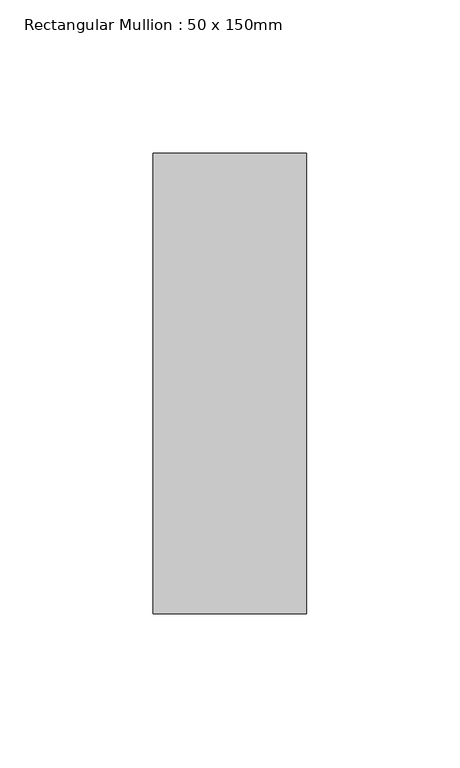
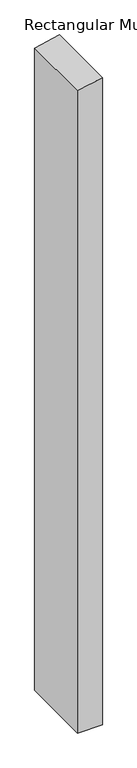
"""IFC4 building model written with IfcOpenShell, lengths in millimetres: member geometry, Rectangular Mullion : 50 x 150mm."""

from ifc_helpers import new_model, si_unit, frame, origin, place, context, project, spatial, polyline, outline, extrude, source, transform, mapped, element, save


def rectangular_mullion_50_x_150mm_c624180b(model_context):
    return source(origin(), model_context, "Body", "SweptSolid", [
        extrude(outline(polyline([(0.0, 0.0), (-10.8374123, -50.0), (-1382.0057927, -50.0), (-1382.0576086, 0.0), (0.0, 0.0)])), frame((0.0, -75.0, 0.0), z_axis=(0.0, 1.0, 0.0), x_axis=(0.0, 0.0, 1.0)), (0.0, 0.0, 1.0), 150.0),
    ])


if __name__ == "__main__":
    model = new_model("IFC4")
    model_context = context("Model", 3, world=origin())
    ifc_project = project(units=[si_unit("LENGTHUNIT", "METRE", prefix="MILLI")], contexts=[model_context])
    site = spatial("IfcSite", under=ifc_project)
    building = spatial("IfcBuilding", under=site)
    placement = place(None, origin())
    rectangular_mullion_50_x_150mm_shape = rectangular_mullion_50_x_150mm_c624180b(model_context)
    element("IfcMember", 1, ObjectType="Rectangular Mullion : 50 x 150mm", at=placement, inside=building, context=model_context, shape_type="MappedRepresentation", body=[
        mapped(rectangular_mullion_50_x_150mm_shape, transform((0.0, 0.0, 0.0), x_axis=(1.0, 0.0, 0.0), y_axis=(0.0, 1.0, 0.0), z_axis=(0.0, 0.0, 1.0))),
    ])
    save(model, "model.ifc")
